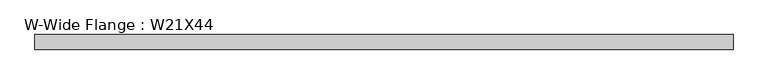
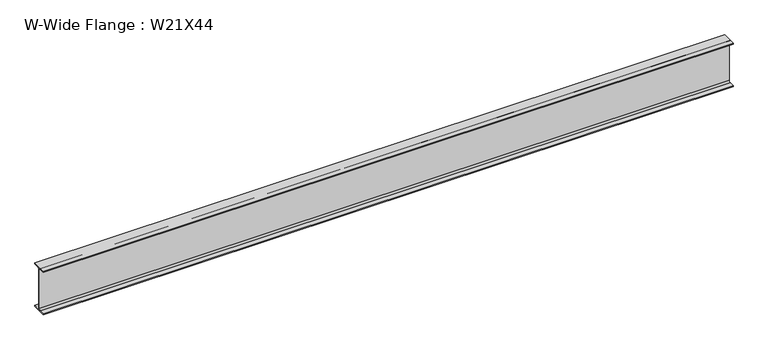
"""IFC4 building model written with IfcOpenShell, lengths in millimetres: beam geometry, W-Wide Flange : W21X44."""

from ifc_helpers import new_model, si_unit, point, frame, frame_2d, origin, place, context, project, spatial, polyline, circle_curve, trimmed, segment, composite_curve, outline, extrude, source, transform, mapped, element, save


def w_wide_flange_w21x44_aedf4de2(model_context):
    return source(origin(), model_context, "Body", "SweptSolid", [
        extrude(outline(composite_curve([segment(polyline([(82.55, -251.46), (82.55, -262.89), (-82.55, -262.89), (-82.55, -251.46), (-21.59, -251.46)]), True, "CONTINUOUS"), segment(trimmed(circle_curve(frame_2d((-21.59, -234.315)), 17.145), [point((-21.59, -251.46))], [point((-4.445, -234.315))], True, "CARTESIAN"), True, "CONTINUOUS"), segment(polyline([(-4.445, -234.315), (-4.445, 234.315)]), True, "CONTINUOUS"), segment(trimmed(circle_curve(frame_2d((-21.59, 234.315)), 17.145), [point((-4.445, 234.315))], [point((-21.59, 251.46))], True, "CARTESIAN"), True, "CONTINUOUS"), segment(polyline([(-21.59, 251.46), (-82.55, 251.46), (-82.55, 262.89), (82.55, 262.89), (82.55, 251.46), (21.59, 251.46)]), True, "CONTINUOUS"), segment(trimmed(circle_curve(frame_2d((21.59, 234.315)), 17.145), [point((21.59, 251.46))], [point((4.445, 234.315))], True, "CARTESIAN"), True, "CONTINUOUS"), segment(polyline([(4.445, 234.315), (4.445, -234.315)]), True, "CONTINUOUS"), segment(trimmed(circle_curve(frame_2d((21.59, -234.315)), 17.145), [point((4.445, -234.315))], [point((21.59, -251.46))], True, "CARTESIAN"), True, "CONTINUOUS"), segment(polyline([(21.59, -251.46), (82.55, -251.46)]), True, "CONTINUOUS")], self_intersect=False)), frame((-3907.705568, 0.0, 0.0), z_axis=(1.0, 0.0, 0.0), x_axis=(0.0, 1.0, 0.0)), (0.0, 0.0, 1.0), 7875.9910422),
    ])


if __name__ == "__main__":
    model = new_model("IFC4")
    model_context = context("Model", 3, world=origin())
    ifc_project = project(units=[si_unit("LENGTHUNIT", "METRE", prefix="MILLI")], contexts=[model_context])
    site = spatial("IfcSite", under=ifc_project)
    building = spatial("IfcBuilding", under=site)
    placement = place(None, origin())
    w_wide_flange_w21x44_shape = w_wide_flange_w21x44_aedf4de2(model_context)
    element("IfcBeam", 1, ObjectType="W-Wide Flange : W21X44", at=placement, inside=building, context=model_context, shape_type="MappedRepresentation", body=[
        mapped(w_wide_flange_w21x44_shape, transform((0.0, 0.0, 0.0), x_axis=(1.0, 0.0, 0.0), y_axis=(0.0, 1.0, 0.0), z_axis=(0.0, 0.0, 1.0))),
    ])
    save(model, "model.ifc")
